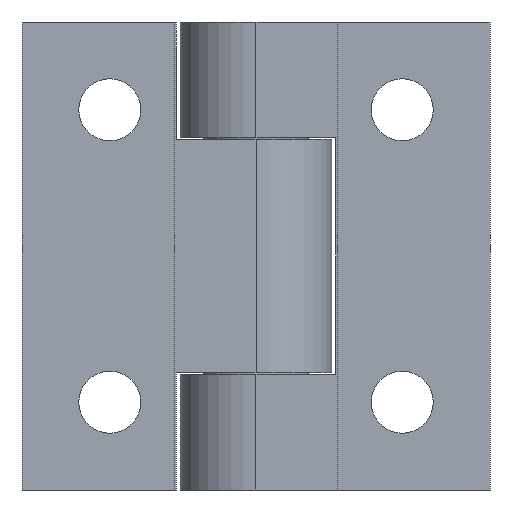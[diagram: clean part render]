
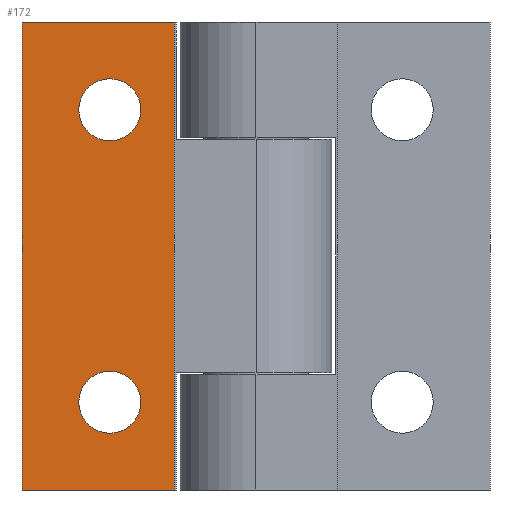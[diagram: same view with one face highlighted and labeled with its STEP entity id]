
A CAD part, front view. The second image highlights one B-rep face of the part: STEP entity #172.
In plain terms, the highlighted planar face has unit normal (0, -1, 0).
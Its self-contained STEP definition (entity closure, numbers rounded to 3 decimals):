
#172 = ADVANCED_FACE( '', ( #291, #292, #293 ), #294, .F. );
#291 = FACE_BOUND( '', #559, .T. );
#292 = FACE_BOUND( '', #560, .T. );
#293 = FACE_OUTER_BOUND( '', #561, .T. );
#294 = PLANE( '', #562 );
#559 = EDGE_LOOP( '', ( #847 ) );
#560 = EDGE_LOOP( '', ( #848 ) );
#561 = EDGE_LOOP( '', ( #849, #850, #851, #852 ) );
#562 = AXIS2_PLACEMENT_3D( '', #853, #854, #855 );
#847 = ORIENTED_EDGE( '', *, *, #1658, .F. );
#848 = ORIENTED_EDGE( '', *, *, #1659, .F. );
#849 = ORIENTED_EDGE( '', *, *, #1660, .T. );
#850 = ORIENTED_EDGE( '', *, *, #1661, .F. );
#851 = ORIENTED_EDGE( '', *, *, #1662, .F. );
#852 = ORIENTED_EDGE( '', *, *, #1663, .T. );
#853 = CARTESIAN_POINT( '', ( 0., 0., 20. ) );
#854 = DIRECTION( '', ( 0., 1., 0. ) );
#855 = DIRECTION( '', ( 0., 0., 1. ) );
#1658 = EDGE_CURVE( '', #1917, #1917, #1918, .T. );
#1659 = EDGE_CURVE( '', #1919, #1919, #1920, .T. );
#1660 = EDGE_CURVE( '', #1921, #1922, #1923, .T. );
#1661 = EDGE_CURVE( '', #1924, #1922, #1925, .T. );
#1662 = EDGE_CURVE( '', #1926, #1924, #1927, .T. );
#1663 = EDGE_CURVE( '', #1926, #1921, #1928, .T. );
#1917 = VERTEX_POINT( '', #2348 );
#1918 = CIRCLE( '', #2349, 2.65 );
#1919 = VERTEX_POINT( '', #2350 );
#1920 = CIRCLE( '', #2351, 2.65 );
#1921 = VERTEX_POINT( '', #2352 );
#1922 = VERTEX_POINT( '', #2353 );
#1923 = LINE( '', #2354, #2355 );
#1924 = VERTEX_POINT( '', #2356 );
#1925 = LINE( '', #2357, #2358 );
#1926 = VERTEX_POINT( '', #2359 );
#1927 = LINE( '', #2360, #2361 );
#1928 = LINE( '', #2362, #2363 );
#2348 = CARTESIAN_POINT( '', ( 7.5, 0., -15.15 ) );
#2349 = AXIS2_PLACEMENT_3D( '', #2974, #2975, #2976 );
#2350 = CARTESIAN_POINT( '', ( 7.5, 0., 9.85 ) );
#2351 = AXIS2_PLACEMENT_3D( '', #2977, #2978, #2979 );
#2352 = CARTESIAN_POINT( '', ( 0., 0., -20. ) );
#2353 = CARTESIAN_POINT( '', ( 13., 0., -20. ) );
#2354 = CARTESIAN_POINT( '', ( 0., 0., -20. ) );
#2355 = VECTOR( '', #2980, 1000. );
#2356 = CARTESIAN_POINT( '', ( 13., 0., 20. ) );
#2357 = CARTESIAN_POINT( '', ( 13., 0., 20. ) );
#2358 = VECTOR( '', #2981, 1000. );
#2359 = CARTESIAN_POINT( '', ( 0., 0., 20. ) );
#2360 = CARTESIAN_POINT( '', ( 0., 0., 20. ) );
#2361 = VECTOR( '', #2982, 1000. );
#2362 = CARTESIAN_POINT( '', ( 0., 0., 20. ) );
#2363 = VECTOR( '', #2983, 1000. );
#2974 = CARTESIAN_POINT( '', ( 7.5, 0., -12.5 ) );
#2975 = DIRECTION( '', ( 0., -1., 0. ) );
#2976 = DIRECTION( '', ( 0., 0., -1. ) );
#2977 = CARTESIAN_POINT( '', ( 7.5, 0., 12.5 ) );
#2978 = DIRECTION( '', ( 0., -1., 0. ) );
#2979 = DIRECTION( '', ( 0., 0., -1. ) );
#2980 = DIRECTION( '', ( 1., 0., 0. ) );
#2981 = DIRECTION( '', ( 0., 0., -1. ) );
#2982 = DIRECTION( '', ( 1., 0., 0. ) );
#2983 = DIRECTION( '', ( 0., 0., -1. ) );
